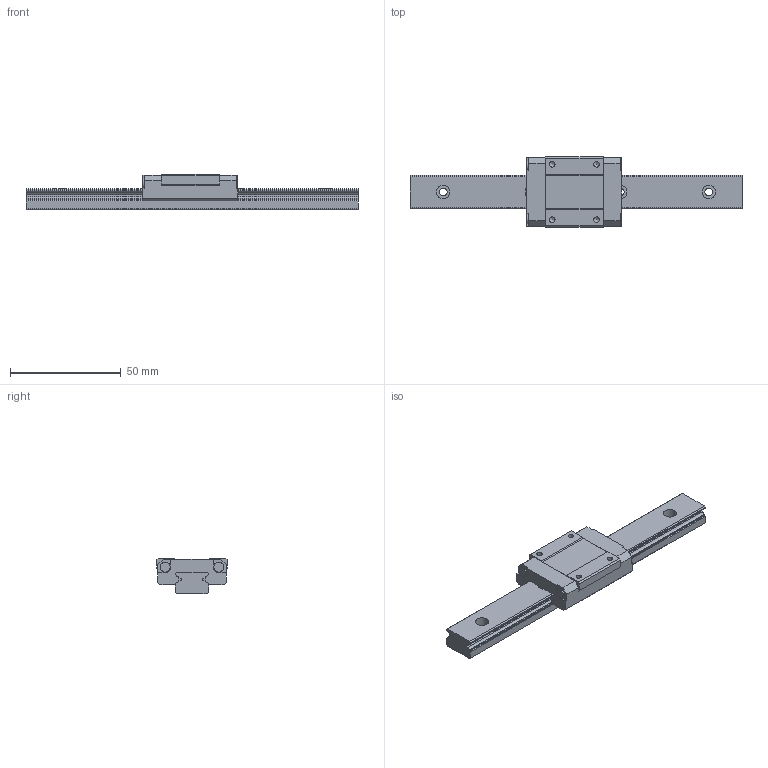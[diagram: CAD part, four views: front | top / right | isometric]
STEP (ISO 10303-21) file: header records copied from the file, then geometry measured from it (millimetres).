
FILE_DESCRIPTION((''),'2;1');
FILE_NAME('D:\製品 (図面)\カタログ用3D\リニアガイド関連\STEP形式\LGM\LGM15.stp','2010-06-02T15:55:34',('Tsuchiya'),(''),'Autodesk Inventor 10','Autodesk Inventor 10','');
FILE_SCHEMA(('AUTOMOTIVE_DESIGN { 1 0 10303 214 1 1 1 1 }'));
Length unit declared in the file: millimetre
Products named in the file (3): LGM15; LGM151; LGM152
Assembly tree (2 placements, depth 2):
  LGM15
    LGM151
    LGM152
Bounding box: 150 x 32 x 16 mm (x, y, z)
Volume: 31254.6 mm3; surface area: 14117.2 mm2
Topology: 2 solids, 2 shells, 128 faces, 348 edges, 232 vertices
Faces by surface type: plane 81, bspline 30, cylinder 17
Full cylindrical faces by diameter (mm): 4.5 x2
Entity records: 4198 total; most frequent: CARTESIAN_POINT 1047, ORIENTED_EDGE 640, DIRECTION 592, EDGE_CURVE 320, VECTOR 254, LINE 254, VERTEX_POINT 224, AXIS2_PLACEMENT_3D 169
